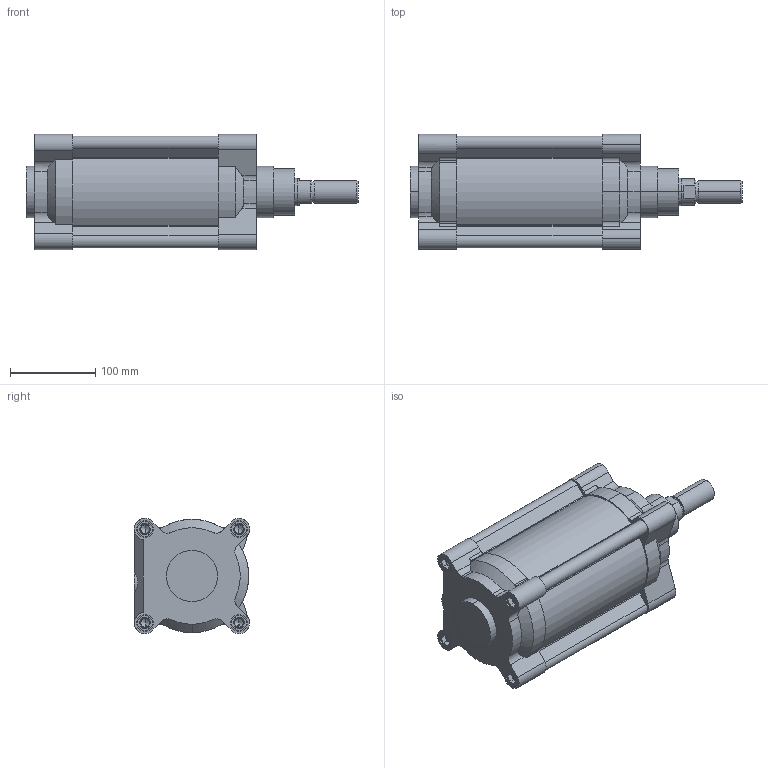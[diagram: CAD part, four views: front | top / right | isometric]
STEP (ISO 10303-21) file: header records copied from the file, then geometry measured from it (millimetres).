
FILE_DESCRIPTION (( 'STEP AP203' ), '1' );
FILE_NAME ('CPME125-100.STEP', '2024-09-02T12:21:15', ( '' ), ( '' ), 'SwSTEP 2.0', 'SolidWorks 2019', '' );
FILE_SCHEMA (( 'CONFIG_CONTROL_DESIGN' ));
Length unit declared in the file: millimetre
Products named in the file (1): CPME125-100
Bounding box: 389 x 134.99 x 135 mm (x, y, z)
Volume: 2946476.6 mm3; surface area: 427211.3 mm2
Topology: 4 solids, 4 shells, 418 faces, 1031 edges, 638 vertices
Faces by surface type: plane 191, cylinder 175, cone 52
Entity records: 12808 total; most frequent: CARTESIAN_POINT 2688, DIRECTION 2211, ORIENTED_EDGE 2022, EDGE_CURVE 1011, AXIS2_PLACEMENT_3D 819, VERTEX_POINT 638, VECTOR 573, LINE 573
